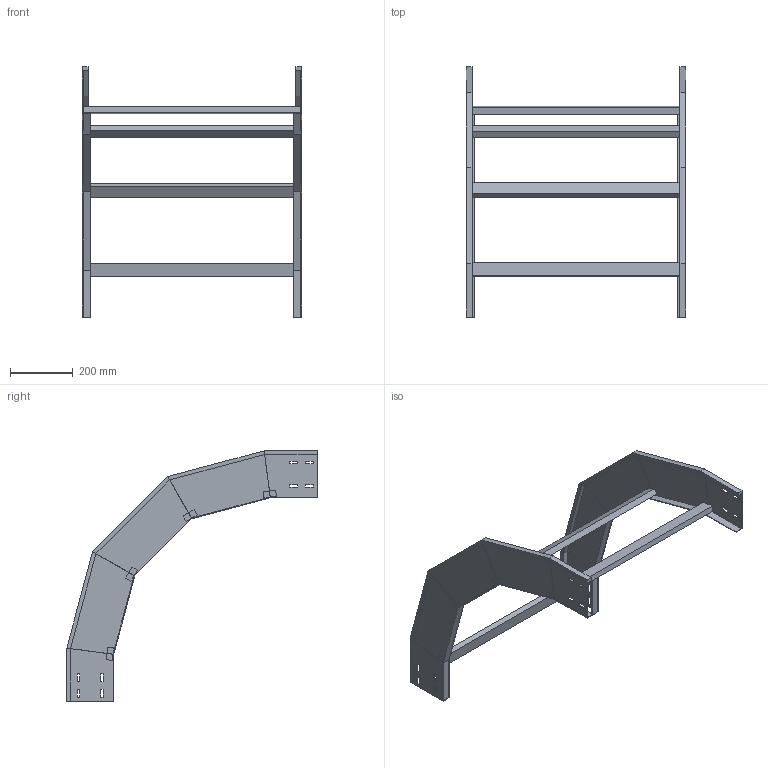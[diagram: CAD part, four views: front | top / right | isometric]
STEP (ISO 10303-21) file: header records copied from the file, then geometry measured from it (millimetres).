
FILE_DESCRIPTION (( 'STEP AP214' ), '1' );
FILE_NAME ('33J5F700.step', '2025-02-21T16:23:18', ( '' ), ( '' ), 'SwSTEP 2.0', 'SolidWorks 2023', '' );
FILE_SCHEMA (( 'AUTOMOTIVE_DESIGN' ));
Length unit declared in the file: millimetre
Products named in the file (3): LONGH.DISCESA_90°_H150_R500; 33J5F700; TRAVERSINO_700
Assembly tree (6 placements, depth 2):
  33J5F700
    LONGH.DISCESA_90°_H150_R500  x2
    TRAVERSINO_700  x4
Bounding box: 700 x 800.35 x 800.35 mm (x, y, z)
Volume: 3575781.6 mm3; surface area: 1259710.1 mm2
Topology: 6 solids, 6 shells, 172 faces, 416 edges, 256 vertices
Faces by surface type: plane 172
Entity records: 2416 total; most frequent: CARTESIAN_POINT 405, ORIENTED_EDGE 392, DIRECTION 374, LINE 196, VECTOR 196, EDGE_CURVE 196, VERTEX_POINT 120, EDGE_LOOP 96
